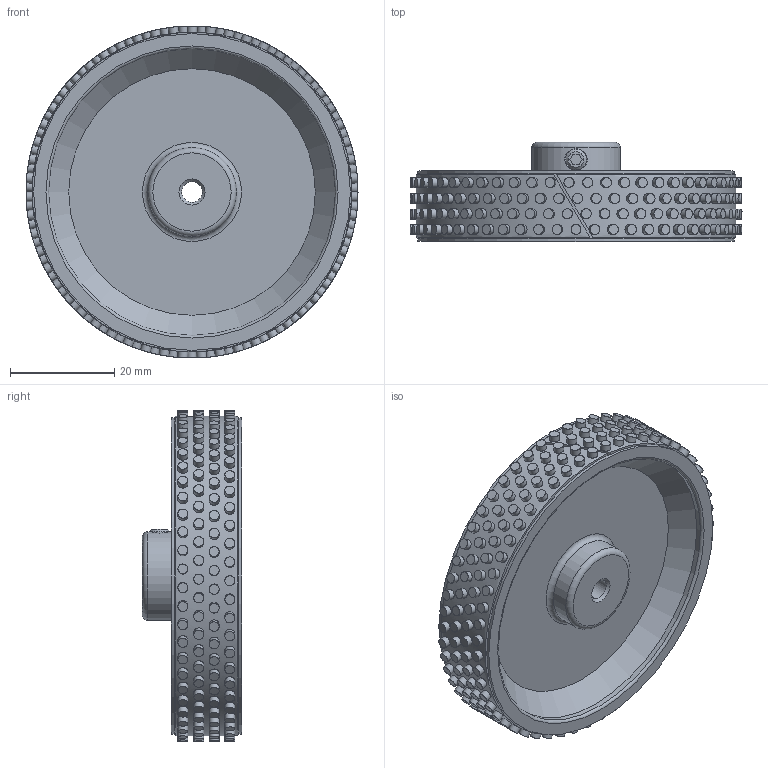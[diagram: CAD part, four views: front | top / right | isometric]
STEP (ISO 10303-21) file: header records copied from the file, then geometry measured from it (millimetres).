
FILE_DESCRIPTION( ( 'Unknown' ), '1' );
FILE_NAME( '//emea.baumernet.org/de01apps/Konstr_Zchng/3D_Zeichnung/Produkte/Messrad/Messräder_09156/Step-Marketing/MR261.04A.stp', 'Unknown', ( 'Unknown' ), ( 'Unknown' ), 'PSStep 19.0.9', 'Unknown', ' ' );
FILE_SCHEMA( ( 'AUTOMOTIVE_DESIGN { 1 0 10303 214 1 1 1 1 }' ) );
Length unit declared in the file: millimetre
Products named in the file (4): Assem1; 05504261R; Gewindestift M4x6 DIN 913; 14700024_Rund
Assembly tree (3 placements, depth 2):
  Assem1
    05504261R
    Gewindestift M4x6 DIN 913
    14700024_Rund
Bounding box: 63.66 x 19 x 63.66 mm (x, y, z)
Volume: 20873.8 mm3; surface area: 17041.6 mm2
Topology: 3 solids, 3 shells, 486 faces, 752 edges, 499 vertices
Faces by surface type: cylinder 452, plane 21, cone 6, torus 6, bspline 1
Full cylindrical faces by diameter (mm): 1.9 x220, 3.242 x1, 4 x2, 17 x2, 55 x2, 59.76 x1, 60.75 x2
Entity records: 22592 total; most frequent: CARTESIAN_POINT 15276, DIRECTION 1076, ORIENTED_EDGE 1006, EDGE_LOOP 960, FACE_OUTER_BOUND 723, AXIS2_PLACEMENT_3D 527, EDGE_CURVE 503, VERTEX_POINT 493
